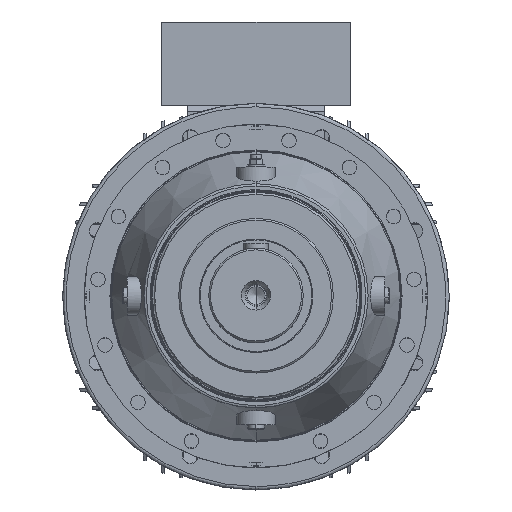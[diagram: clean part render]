
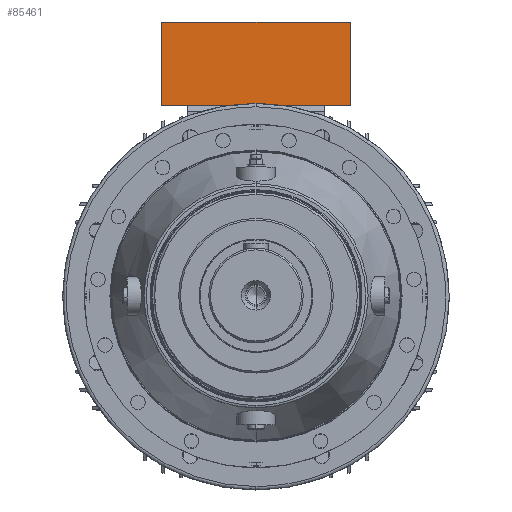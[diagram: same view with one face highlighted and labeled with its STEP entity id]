
A CAD part, top view. The second image highlights one B-rep face of the part: STEP entity #85461.
In plain terms, the highlighted planar face has unit normal (0, 0, 1).
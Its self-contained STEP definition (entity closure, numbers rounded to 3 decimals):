
#1315 = VERTEX_POINT ( 'NONE', #58222 ) ;
#1399 = VERTEX_POINT ( 'NONE', #58244 ) ;
#1937 = VERTEX_POINT ( 'NONE', #49759 ) ;
#21047 = VERTEX_POINT ( 'NONE', #31658 ) ;
#21699 = PLANE ( 'NONE',  #72859 ) ;
#21700 = DIRECTION ( 'NONE',  ( -1., 0., 0. ) ) ;
#21709 = CARTESIAN_POINT ( 'NONE',  ( 110., 320., -14.5 ) ) ;
#21712 = DIRECTION ( 'NONE',  ( 0., 0., -1. ) ) ;
#31658 = CARTESIAN_POINT ( 'NONE',  ( 110., 320., -14.5 ) ) ;
#33590 = DIRECTION ( 'NONE',  ( 1., 0., 0. ) ) ;
#33609 = CARTESIAN_POINT ( 'NONE',  ( 110., 223., -14.5 ) ) ;
#33618 = DIRECTION ( 'NONE',  ( 0., -1., 0. ) ) ;
#33619 = CARTESIAN_POINT ( 'NONE',  ( 110., 320., -14.5 ) ) ;
#34122 = CARTESIAN_POINT ( 'NONE',  ( 110., 320., -14.5 ) ) ;
#34124 = DIRECTION ( 'NONE',  ( 0., 1., 0. ) ) ;
#34160 = CARTESIAN_POINT ( 'NONE',  ( -110., 320., -14.5 ) ) ;
#34240 = DIRECTION ( 'NONE',  ( 1., 0., 0. ) ) ;
#49759 = CARTESIAN_POINT ( 'NONE',  ( -110., 320., -14.5 ) ) ;
#52911 = EDGE_LOOP ( 'NONE', ( #70151, #70176, #70053, #70117 ) ) ;
#58222 = CARTESIAN_POINT ( 'NONE',  ( -110., 223., -14.5 ) ) ;
#58244 = CARTESIAN_POINT ( 'NONE',  ( 110., 223., -14.5 ) ) ;
#63964 = EDGE_CURVE ( 'NONE', #1315, #1937, #83170, .T. ) ;
#63976 = EDGE_CURVE ( 'NONE', #1937, #21047, #83101, .T. ) ;
#64046 = EDGE_CURVE ( 'NONE', #1315, #1399, #83351, .T. ) ;
#64065 = EDGE_CURVE ( 'NONE', #21047, #1399, #83339, .T. ) ;
#70053 = ORIENTED_EDGE ( 'NONE', *, *, #64046, .T. ) ;
#70117 = ORIENTED_EDGE ( 'NONE', *, *, #64065, .F. ) ;
#70151 = ORIENTED_EDGE ( 'NONE', *, *, #63976, .F. ) ;
#70176 = ORIENTED_EDGE ( 'NONE', *, *, #63964, .F. ) ;
#72859 = AXIS2_PLACEMENT_3D ( 'NONE', #21709, #21712, #21700 ) ;
#80390 = FACE_OUTER_BOUND ( 'NONE', #52911, .T. ) ;
#83101 = LINE ( 'NONE', #34122, #83116 ) ;
#83116 = VECTOR ( 'NONE', #34240, 1000. ) ;
#83127 = VECTOR ( 'NONE', #34124, 1000. ) ;
#83170 = LINE ( 'NONE', #34160, #83127 ) ;
#83330 = VECTOR ( 'NONE', #33590, 1000. ) ;
#83332 = VECTOR ( 'NONE', #33618, 1000. ) ;
#83339 = LINE ( 'NONE', #33619, #83332 ) ;
#83351 = LINE ( 'NONE', #33609, #83330 ) ;
#85461 = ADVANCED_FACE ( 'NONE', ( #80390 ), #21699, .F. ) ;
